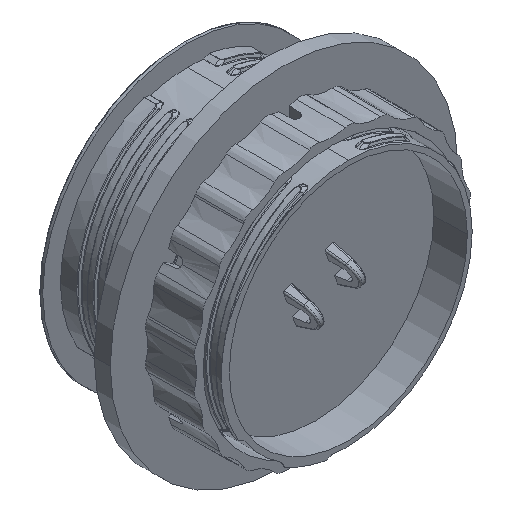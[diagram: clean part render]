
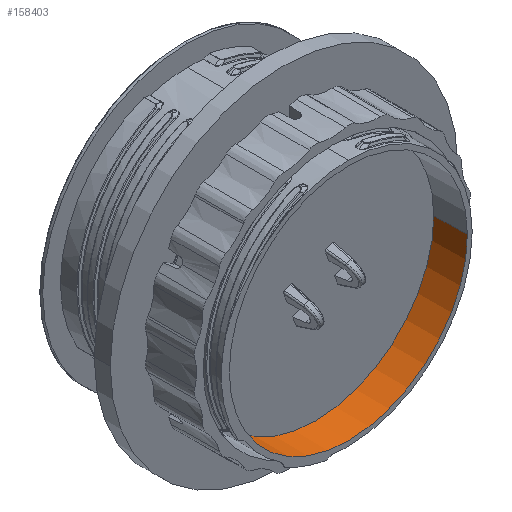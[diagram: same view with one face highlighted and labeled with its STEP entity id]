
A CAD part, isometric view. The second image highlights one B-rep face of the part: STEP entity #158403.
In plain terms, the highlighted conical face has half-angle 1 degrees and reference radius 36.998 mm.
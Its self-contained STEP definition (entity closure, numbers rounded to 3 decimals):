
#4810 = EDGE_CURVE ( 'NONE', #64395, #206903, #269318, .T. ) ;
#12411 = CARTESIAN_POINT ( 'NONE',  ( 36.997, -53.5, 0.002 ) ) ;
#15333 = ORIENTED_EDGE ( 'NONE', *, *, #4810, .F. ) ;
#17421 = AXIS2_PLACEMENT_3D ( 'NONE', #48494, #70487, #221639 ) ;
#33734 = LINE ( 'NONE', #245289, #213989 ) ;
#44811 = EDGE_CURVE ( 'NONE', #104762, #268939, #33734, .T. ) ;
#45175 = CONICAL_SURFACE ( 'NONE', #229600, 36.997, 0.017 ) ;
#48494 = CARTESIAN_POINT ( 'NONE',  ( 0., -53.5, 0.002 ) ) ;
#55588 = EDGE_CURVE ( 'NONE', #206903, #268939, #61387, .T. ) ;
#61387 = CIRCLE ( 'NONE', #17421, 36.997 ) ;
#64395 = VERTEX_POINT ( 'NONE', #263008 ) ;
#70487 = DIRECTION ( 'NONE',  ( 0., 1., 0. ) ) ;
#82066 = DIRECTION ( 'NONE',  ( 1., 0., 0. ) ) ;
#83417 = CARTESIAN_POINT ( 'NONE',  ( 0., -43.25, 0.002 ) ) ;
#102277 = CIRCLE ( 'NONE', #190105, 36.819 ) ;
#104762 = VERTEX_POINT ( 'NONE', #218702 ) ;
#125338 = ORIENTED_EDGE ( 'NONE', *, *, #44811, .T. ) ;
#142822 = DIRECTION ( 'NONE',  ( 0.017, -1., 0. ) ) ;
#143863 = CARTESIAN_POINT ( 'NONE',  ( 0., -53.5, 0.002 ) ) ;
#146219 = CARTESIAN_POINT ( 'NONE',  ( 36.997, -53.5, 0.002 ) ) ;
#158403 = ADVANCED_FACE ( 'NONE', ( #167213 ), #45175, .F. ) ;
#158584 = EDGE_CURVE ( 'NONE', #64395, #104762, #102277, .T. ) ;
#160100 = DIRECTION ( 'NONE',  ( -0.017, -1., 0. ) ) ;
#165092 = VECTOR ( 'NONE', #142822, 1000. ) ;
#167213 = FACE_OUTER_BOUND ( 'NONE', #271495, .T. ) ;
#167542 = ORIENTED_EDGE ( 'NONE', *, *, #55588, .F. ) ;
#168363 = CARTESIAN_POINT ( 'NONE',  ( -36.998, -53.5, 0.002 ) ) ;
#187820 = DIRECTION ( 'NONE',  ( 0., 1., 0. ) ) ;
#190105 = AXIS2_PLACEMENT_3D ( 'NONE', #83417, #187820, #251053 ) ;
#193891 = ORIENTED_EDGE ( 'NONE', *, *, #158584, .T. ) ;
#206903 = VERTEX_POINT ( 'NONE', #146219 ) ;
#213989 = VECTOR ( 'NONE', #160100, 1000. ) ;
#218702 = CARTESIAN_POINT ( 'NONE',  ( -36.819, -43.25, 0.002 ) ) ;
#221639 = DIRECTION ( 'NONE',  ( 1., 0., 0. ) ) ;
#229600 = AXIS2_PLACEMENT_3D ( 'NONE', #143863, #245658, #82066 ) ;
#245289 = CARTESIAN_POINT ( 'NONE',  ( -36.998, -53.5, 0.002 ) ) ;
#245658 = DIRECTION ( 'NONE',  ( 0., -1., 0. ) ) ;
#251053 = DIRECTION ( 'NONE',  ( 0., 0., -1. ) ) ;
#263008 = CARTESIAN_POINT ( 'NONE',  ( 36.818, -43.25, 0.002 ) ) ;
#268939 = VERTEX_POINT ( 'NONE', #168363 ) ;
#269318 = LINE ( 'NONE', #12411, #165092 ) ;
#271495 = EDGE_LOOP ( 'NONE', ( #193891, #125338, #167542, #15333 ) ) ;
